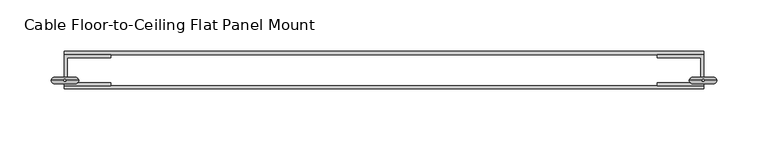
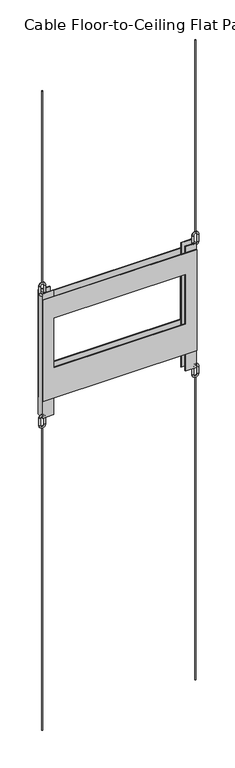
"""IFC4 building model written with IfcOpenShell, lengths in millimetres: proxy geometry, Flat_Panel_Mount-Chief-Cable_Floor_to_Ceiling : Cable Floor-to-Ceiling Flat Panel Mount."""

from ifc_helpers import new_model, si_unit, point, frame, frame_2d, origin, origin_with_axes, place, context, project, spatial, polyline, circle_curve, ellipse_curve, trimmed, segment, composite_curve, outline, extrude, source, transform, mapped, element, save
from ifc_brep_helpers import cylinder_surface, revolved_surface, advanced_brep


def cable_floor_to_ceiling_flat_panel_mount_2f2725ce(model_context):
    return source(origin(), model_context, "Body", "SolidModel", [
        extrude(outline(polyline([(1849.8301809, 311.785), (1849.8301809, -311.785), (1414.9821809, -311.785), (1414.9821809, 311.785), (1849.8301809, 311.785)]), holes=[polyline([(1545.0301809, -266.7), (1757.6281809, -266.7), (1757.6281809, 266.7), (1545.0301809, 266.7), (1545.0301809, -266.7)])]), frame((0.0, 33.528, 0.0), z_axis=(0.0, 1.0, 0.0), x_axis=(0.0, 0.0, 1.0)), (0.0, 0.0, 1.0), 3.048),
        advanced_brep(
        [(-324.485, 8.255, 1311.3501809), (-297.815, 8.255, 1311.3501809), (-304.165, 8.255, 1311.3501809), (-318.135, 8.255, 1311.3501809), (-318.135, 8.255, 1341.8301809), (-324.485, 8.255, 1341.8301809), (-297.815, 8.255, 1341.8301809), (-304.165, 8.255, 1341.8301809)],
        [
            (0, 1, circle_curve(frame((-311.15, 8.255, 1311.3501809), z_axis=(0.0, -1.0, 0.0), x_axis=(1.0, 0.0, 0.0)), 13.335)),
            (1, 2, circle_curve(frame((-300.99, 8.255, 1311.3501809), z_axis=(0.0, 0.0, -1.0), x_axis=(1.0, 0.0, 0.0)), 3.175)),
            (2, 3, circle_curve(frame((-311.15, 8.255, 1311.3501809), z_axis=(0.0, 1.0, 0.0), x_axis=(1.0, 0.0, 0.0)), 6.985)),
            (3, 0, circle_curve(frame((-321.31, 8.255, 1311.3501809), z_axis=(0.0, 0.0, -1.0), x_axis=(-1.0, 0.0, 0.0)), 3.175)),
            (2, 1, circle_curve(frame((-300.99, 8.255, 1311.3501809), z_axis=(0.0, 0.0, -1.0), x_axis=(1.0, 0.0, 0.0)), 3.175)),
            (0, 3, circle_curve(frame((-321.31, 8.255, 1311.3501809), z_axis=(0.0, 0.0, -1.0), x_axis=(-1.0, 0.0, 0.0)), 3.175)),
            (3, 4),
            (4, 5, circle_curve(frame((-321.31, 8.255, 1341.8301809), z_axis=(0.0, 0.0, -1.0), x_axis=(-1.0, 0.0, 0.0)), 3.175)),
            (5, 0),
            (5, 4, circle_curve(frame((-321.31, 8.255, 1341.8301809), z_axis=(0.0, 0.0, -1.0), x_axis=(-1.0, 0.0, 0.0)), 3.175)),
            (6, 5, circle_curve(frame((-311.15, 8.255, 1341.8301809), z_axis=(0.0, -1.0, 0.0), x_axis=(-1.0, 0.0, 0.0)), 13.335)),
            (4, 7, circle_curve(frame((-311.15, 8.255, 1341.8301809), z_axis=(0.0, 1.0, 0.0), x_axis=(-1.0, 0.0, 0.0)), 6.985)),
            (7, 6, circle_curve(frame((-300.99, 8.255, 1341.8301809), z_axis=(0.0, 0.0, 1.0), x_axis=(1.0, 0.0, 0.0)), 3.175)),
            (6, 7, circle_curve(frame((-300.99, 8.255, 1341.8301809), z_axis=(0.0, 0.0, 1.0), x_axis=(1.0, 0.0, 0.0)), 3.175)),
            (7, 2),
            (1, 6),
        ],
        [
            revolved_surface(trimmed(ellipse_curve(frame((-300.99, 8.255, 1311.3501809), z_axis=(0.0, 0.0, 1.0), x_axis=(1.0, 0.0, 0.0)), 3.175, 3.175), [point((-304.165, 8.255, 1311.3501809))], [point((-297.815, 8.255, 1311.3501809))], True, "CARTESIAN"), (-311.15, 8.255, 1311.3501809), (0.0, 1.0, 0.0)),
            revolved_surface(trimmed(ellipse_curve(frame((-300.99, 8.255, 1311.3501809), z_axis=(0.0, 0.0, 1.0), x_axis=(1.0, 0.0, 0.0)), 3.175, 3.175), [point((-297.815, 8.255, 1311.3501809))], [point((-304.165, 8.255, 1311.3501809))], True, "CARTESIAN"), (-311.15, 8.255, 1311.3501809), (0.0, 1.0, 0.0)),
            cylinder_surface(frame((-321.31, 8.255, 1311.3501809), z_axis=(0.0, 0.0, -1.0), x_axis=(-1.0, 0.0, 0.0)), 3.175),
            revolved_surface(trimmed(ellipse_curve(frame((-321.31, 8.255, 1341.8301809), z_axis=(0.0, 0.0, -1.0), x_axis=(-1.0, 0.0, 0.0)), 3.175, 3.175), [point((-318.135, 8.255, 1341.8301809))], [point((-324.485, 8.255, 1341.8301809))], True, "CARTESIAN"), (-311.15, 8.255, 1341.8301809), (0.0, 1.0, 0.0)),
            revolved_surface(trimmed(ellipse_curve(frame((-321.31, 8.255, 1341.8301809), z_axis=(0.0, 0.0, -1.0), x_axis=(-1.0, 0.0, 0.0)), 3.175, 3.175), [point((-324.485, 8.255, 1341.8301809))], [point((-318.135, 8.255, 1341.8301809))], True, "CARTESIAN"), (-311.15, 8.255, 1341.8301809), (0.0, 1.0, 0.0)),
            cylinder_surface(frame((-300.99, 8.255, 1341.8301809), z_axis=(0.0, 0.0, 1.0), x_axis=(1.0, 0.0, 0.0)), 3.175),
        ],
        [
            (0, [[1, 2, 3, 4]]),
            (1, [[-3, 5, -1, 6]]),
            (2, [[-4, 7, 8, 9]]),
            (2, [[-6, -9, 10, -7]]),
            (3, [[11, -8, 12, 13]]),
            (4, [[-12, -10, -11, 14]]),
            (5, [[-13, 15, -2, 16]]),
            (5, [[-14, -16, -5, -15]]),
        ],
    ),
        extrude(outline(composite_curve([segment(trimmed(circle_curve(frame_2d((-311.15, 8.255)), 1.016), [point((-312.166, 8.255))], [point((-310.134, 8.255))], False, "CARTESIAN"), True, "CONTINUOUS"), segment(trimmed(circle_curve(frame_2d((-311.15, 8.255)), 1.016), [point((-310.134, 8.255))], [point((-312.166, 8.255))], False, "CARTESIAN"), True, "CONTINUOUS")], self_intersect=False)), origin_with_axes(), (0.0, 0.0, 1.0), 1301.1901809),
        advanced_brep(
        [(-297.815, 8.255, 1908.2501809), (-324.485, 8.255, 1908.2501809), (-318.135, 8.255, 1908.2501809), (-304.165, 8.255, 1908.2501809), (-304.165, 8.255, 1877.7701809), (-297.815, 8.255, 1877.7701809), (-324.485, 8.255, 1877.7701809), (-318.135, 8.255, 1877.7701809)],
        [
            (0, 1, circle_curve(frame((-311.15, 8.255, 1908.2501809), z_axis=(0.0, -1.0, 0.0), x_axis=(-1.0, 0.0, 0.0)), 13.335)),
            (1, 2, circle_curve(frame((-321.31, 8.255, 1908.2501809), z_axis=(0.0, 0.0, 1.0), x_axis=(-1.0, 0.0, 0.0)), 3.175)),
            (2, 3, circle_curve(frame((-311.15, 8.255, 1908.2501809), z_axis=(0.0, 1.0, 0.0), x_axis=(-1.0, 0.0, 0.0)), 6.985)),
            (3, 0, circle_curve(frame((-300.99, 8.255, 1908.2501809), z_axis=(0.0, 0.0, 1.0), x_axis=(1.0, 0.0, 0.0)), 3.175)),
            (2, 1, circle_curve(frame((-321.31, 8.255, 1908.2501809), z_axis=(0.0, 0.0, 1.0), x_axis=(-1.0, 0.0, 0.0)), 3.175)),
            (0, 3, circle_curve(frame((-300.99, 8.255, 1908.2501809), z_axis=(0.0, 0.0, 1.0), x_axis=(1.0, 0.0, 0.0)), 3.175)),
            (3, 4),
            (4, 5, circle_curve(frame((-300.99, 8.255, 1877.7701809), z_axis=(0.0, 0.0, 1.0), x_axis=(1.0, 0.0, 0.0)), 3.175)),
            (5, 0),
            (5, 4, circle_curve(frame((-300.99, 8.255, 1877.7701809), z_axis=(0.0, 0.0, 1.0), x_axis=(1.0, 0.0, 0.0)), 3.175)),
            (6, 5, circle_curve(frame((-311.15, 8.255, 1877.7701809), z_axis=(0.0, -1.0, 0.0), x_axis=(1.0, 0.0, 0.0)), 13.335)),
            (4, 7, circle_curve(frame((-311.15, 8.255, 1877.7701809), z_axis=(0.0, 1.0, 0.0), x_axis=(1.0, 0.0, 0.0)), 6.985)),
            (7, 6, circle_curve(frame((-321.31, 8.255, 1877.7701809), z_axis=(0.0, 0.0, -1.0), x_axis=(-1.0, 0.0, 0.0)), 3.175)),
            (6, 7, circle_curve(frame((-321.31, 8.255, 1877.7701809), z_axis=(0.0, 0.0, -1.0), x_axis=(-1.0, 0.0, 0.0)), 3.175)),
            (7, 2),
            (1, 6),
        ],
        [
            revolved_surface(trimmed(ellipse_curve(frame((-321.31, 8.255, 1908.2501809), z_axis=(0.0, 0.0, -1.0), x_axis=(-1.0, 0.0, 0.0)), 3.175, 3.175), [point((-318.135, 8.255, 1908.2501809))], [point((-324.485, 8.255, 1908.2501809))], True, "CARTESIAN"), (-311.15, 8.255, 1908.2501809), (0.0, 1.0, 0.0)),
            revolved_surface(trimmed(ellipse_curve(frame((-321.31, 8.255, 1908.2501809), z_axis=(0.0, 0.0, -1.0), x_axis=(-1.0, 0.0, 0.0)), 3.175, 3.175), [point((-324.485, 8.255, 1908.2501809))], [point((-318.135, 8.255, 1908.2501809))], True, "CARTESIAN"), (-311.15, 8.255, 1908.2501809), (0.0, 1.0, 0.0)),
            cylinder_surface(frame((-300.99, 8.255, 1908.2501809), z_axis=(0.0, 0.0, 1.0), x_axis=(1.0, 0.0, 0.0)), 3.175),
            revolved_surface(trimmed(ellipse_curve(frame((-300.99, 8.255, 1877.7701809), z_axis=(0.0, 0.0, 1.0), x_axis=(1.0, 0.0, 0.0)), 3.175, 3.175), [point((-304.165, 8.255, 1877.7701809))], [point((-297.815, 8.255, 1877.7701809))], True, "CARTESIAN"), (-311.15, 8.255, 1877.7701809), (0.0, 1.0, 0.0)),
            revolved_surface(trimmed(ellipse_curve(frame((-300.99, 8.255, 1877.7701809), z_axis=(0.0, 0.0, 1.0), x_axis=(1.0, 0.0, 0.0)), 3.175, 3.175), [point((-297.815, 8.255, 1877.7701809))], [point((-304.165, 8.255, 1877.7701809))], True, "CARTESIAN"), (-311.15, 8.255, 1877.7701809), (0.0, 1.0, 0.0)),
            cylinder_surface(frame((-321.31, 8.255, 1877.7701809), z_axis=(0.0, 0.0, -1.0), x_axis=(-1.0, 0.0, 0.0)), 3.175),
        ],
        [
            (0, [[1, 2, 3, 4]]),
            (1, [[-3, 5, -1, 6]]),
            (2, [[-4, 7, 8, 9]]),
            (2, [[-6, -9, 10, -7]]),
            (3, [[11, -8, 12, 13]]),
            (4, [[-12, -10, -11, 14]]),
            (5, [[-13, 15, -2, 16]]),
            (5, [[-14, -16, -5, -15]]),
        ],
    ),
        extrude(outline(composite_curve([segment(trimmed(circle_curve(frame_2d((-311.15, 8.255)), 1.016), [point((-310.134, 8.255))], [point((-312.166, 8.255))], False, "CARTESIAN"), True, "CONTINUOUS"), segment(trimmed(circle_curve(frame_2d((-311.15, 8.255)), 1.016), [point((-312.166, 8.255))], [point((-310.134, 8.255))], False, "CARTESIAN"), True, "CONTINUOUS")], self_intersect=False)), frame((0.0, 0.0, 1918.4101809), z_axis=(0.0, 0.0, 1.0), x_axis=(1.0, 0.0, 0.0)), (0.0, 0.0, 1.0), 824.7898191),
        advanced_brep(
        [(297.815, 8.255, 1311.3501809), (324.485, 8.255, 1311.3501809), (318.135, 8.255, 1311.3501809), (304.165, 8.255, 1311.3501809), (304.165, 8.255, 1341.8301809), (297.815, 8.255, 1341.8301809), (324.485, 8.255, 1341.8301809), (318.135, 8.255, 1341.8301809)],
        [
            (0, 1, circle_curve(frame((311.15, 8.255, 1311.3501809), z_axis=(0.0, -1.0, 0.0), x_axis=(1.0, 0.0, 0.0)), 13.335)),
            (1, 2, circle_curve(frame((321.31, 8.255, 1311.3501809), z_axis=(0.0, 0.0, -1.0), x_axis=(1.0, 0.0, 0.0)), 3.175)),
            (2, 3, circle_curve(frame((311.15, 8.255, 1311.3501809), z_axis=(0.0, 1.0, 0.0), x_axis=(1.0, 0.0, 0.0)), 6.985)),
            (3, 0, circle_curve(frame((300.99, 8.255, 1311.3501809), z_axis=(0.0, 0.0, -1.0), x_axis=(-1.0, 0.0, 0.0)), 3.175)),
            (2, 1, circle_curve(frame((321.31, 8.255, 1311.3501809), z_axis=(0.0, 0.0, -1.0), x_axis=(1.0, 0.0, 0.0)), 3.175)),
            (0, 3, circle_curve(frame((300.99, 8.255, 1311.3501809), z_axis=(0.0, 0.0, -1.0), x_axis=(-1.0, 0.0, 0.0)), 3.175)),
            (3, 4),
            (4, 5, circle_curve(frame((300.99, 8.255, 1341.8301809), z_axis=(0.0, 0.0, -1.0), x_axis=(-1.0, 0.0, 0.0)), 3.175)),
            (5, 0),
            (5, 4, circle_curve(frame((300.99, 8.255, 1341.8301809), z_axis=(0.0, 0.0, -1.0), x_axis=(-1.0, 0.0, 0.0)), 3.175)),
            (6, 5, circle_curve(frame((311.15, 8.255, 1341.8301809), z_axis=(0.0, -1.0, 0.0), x_axis=(-1.0, 0.0, 0.0)), 13.335)),
            (4, 7, circle_curve(frame((311.15, 8.255, 1341.8301809), z_axis=(0.0, 1.0, 0.0), x_axis=(-1.0, 0.0, 0.0)), 6.985)),
            (7, 6, circle_curve(frame((321.31, 8.255, 1341.8301809), z_axis=(0.0, 0.0, 1.0), x_axis=(1.0, 0.0, 0.0)), 3.175)),
            (6, 7, circle_curve(frame((321.31, 8.255, 1341.8301809), z_axis=(0.0, 0.0, 1.0), x_axis=(1.0, 0.0, 0.0)), 3.175)),
            (7, 2),
            (1, 6),
        ],
        [
            revolved_surface(trimmed(ellipse_curve(frame((321.31, 8.255, 1311.3501809), z_axis=(0.0, 0.0, 1.0), x_axis=(1.0, 0.0, 0.0)), 3.175, 3.175), [point((318.135, 8.255, 1311.3501809))], [point((324.485, 8.255, 1311.3501809))], True, "CARTESIAN"), (311.15, 8.255, 1311.3501809), (0.0, 1.0, 0.0)),
            revolved_surface(trimmed(ellipse_curve(frame((321.31, 8.255, 1311.3501809), z_axis=(0.0, 0.0, 1.0), x_axis=(1.0, 0.0, 0.0)), 3.175, 3.175), [point((324.485, 8.255, 1311.3501809))], [point((318.135, 8.255, 1311.3501809))], True, "CARTESIAN"), (311.15, 8.255, 1311.3501809), (0.0, 1.0, 0.0)),
            cylinder_surface(frame((300.99, 8.255, 1311.3501809), z_axis=(0.0, 0.0, -1.0), x_axis=(-1.0, 0.0, 0.0)), 3.175),
            revolved_surface(trimmed(ellipse_curve(frame((300.99, 8.255, 1341.8301809), z_axis=(0.0, 0.0, -1.0), x_axis=(-1.0, 0.0, 0.0)), 3.175, 3.175), [point((304.165, 8.255, 1341.8301809))], [point((297.815, 8.255, 1341.8301809))], True, "CARTESIAN"), (311.15, 8.255, 1341.8301809), (0.0, 1.0, 0.0)),
            revolved_surface(trimmed(ellipse_curve(frame((300.99, 8.255, 1341.8301809), z_axis=(0.0, 0.0, -1.0), x_axis=(-1.0, 0.0, 0.0)), 3.175, 3.175), [point((297.815, 8.255, 1341.8301809))], [point((304.165, 8.255, 1341.8301809))], True, "CARTESIAN"), (311.15, 8.255, 1341.8301809), (0.0, 1.0, 0.0)),
            cylinder_surface(frame((321.31, 8.255, 1341.8301809), z_axis=(0.0, 0.0, 1.0), x_axis=(1.0, 0.0, 0.0)), 3.175),
        ],
        [
            (0, [[1, 2, 3, 4]]),
            (1, [[-3, 5, -1, 6]]),
            (2, [[-4, 7, 8, 9]]),
            (2, [[-6, -9, 10, -7]]),
            (3, [[11, -8, 12, 13]]),
            (4, [[-12, -10, -11, 14]]),
            (5, [[-13, 15, -2, 16]]),
            (5, [[-14, -16, -5, -15]]),
        ],
    ),
        extrude(outline(composite_curve([segment(trimmed(circle_curve(frame_2d((311.15, 8.255)), 1.016), [point((310.134, 8.255))], [point((312.166, 8.255))], False, "CARTESIAN"), True, "CONTINUOUS"), segment(trimmed(circle_curve(frame_2d((311.15, 8.255)), 1.016), [point((312.166, 8.255))], [point((310.134, 8.255))], False, "CARTESIAN"), True, "CONTINUOUS")], self_intersect=False)), origin_with_axes(), (0.0, 0.0, 1.0), 1301.1901809),
        advanced_brep(
        [(324.485, 8.255, 1908.2501809), (297.815, 8.255, 1908.2501809), (304.165, 8.255, 1908.2501809), (318.135, 8.255, 1908.2501809), (318.135, 8.255, 1877.7701809), (324.485, 8.255, 1877.7701809), (297.815, 8.255, 1877.7701809), (304.165, 8.255, 1877.7701809)],
        [
            (0, 1, circle_curve(frame((311.15, 8.255, 1908.2501809), z_axis=(0.0, -1.0, 0.0), x_axis=(-1.0, 0.0, 0.0)), 13.335)),
            (1, 2, circle_curve(frame((300.99, 8.255, 1908.2501809), z_axis=(0.0, 0.0, 1.0), x_axis=(-1.0, 0.0, 0.0)), 3.175)),
            (2, 3, circle_curve(frame((311.15, 8.255, 1908.2501809), z_axis=(0.0, 1.0, 0.0), x_axis=(-1.0, 0.0, 0.0)), 6.985)),
            (3, 0, circle_curve(frame((321.31, 8.255, 1908.2501809), z_axis=(0.0, 0.0, 1.0), x_axis=(1.0, 0.0, 0.0)), 3.175)),
            (2, 1, circle_curve(frame((300.99, 8.255, 1908.2501809), z_axis=(0.0, 0.0, 1.0), x_axis=(-1.0, 0.0, 0.0)), 3.175)),
            (0, 3, circle_curve(frame((321.31, 8.255, 1908.2501809), z_axis=(0.0, 0.0, 1.0), x_axis=(1.0, 0.0, 0.0)), 3.175)),
            (3, 4),
            (4, 5, circle_curve(frame((321.31, 8.255, 1877.7701809), z_axis=(0.0, 0.0, 1.0), x_axis=(1.0, 0.0, 0.0)), 3.175)),
            (5, 0),
            (5, 4, circle_curve(frame((321.31, 8.255, 1877.7701809), z_axis=(0.0, 0.0, 1.0), x_axis=(1.0, 0.0, 0.0)), 3.175)),
            (6, 5, circle_curve(frame((311.15, 8.255, 1877.7701809), z_axis=(0.0, -1.0, 0.0), x_axis=(1.0, 0.0, 0.0)), 13.335)),
            (4, 7, circle_curve(frame((311.15, 8.255, 1877.7701809), z_axis=(0.0, 1.0, 0.0), x_axis=(1.0, 0.0, 0.0)), 6.985)),
            (7, 6, circle_curve(frame((300.99, 8.255, 1877.7701809), z_axis=(0.0, 0.0, -1.0), x_axis=(-1.0, 0.0, 0.0)), 3.175)),
            (6, 7, circle_curve(frame((300.99, 8.255, 1877.7701809), z_axis=(0.0, 0.0, -1.0), x_axis=(-1.0, 0.0, 0.0)), 3.175)),
            (7, 2),
            (1, 6),
        ],
        [
            revolved_surface(trimmed(ellipse_curve(frame((300.99, 8.255, 1908.2501809), z_axis=(0.0, 0.0, -1.0), x_axis=(-1.0, 0.0, 0.0)), 3.175, 3.175), [point((304.165, 8.255, 1908.2501809))], [point((297.815, 8.255, 1908.2501809))], True, "CARTESIAN"), (311.15, 8.255, 1908.2501809), (0.0, 1.0, 0.0)),
            revolved_surface(trimmed(ellipse_curve(frame((300.99, 8.255, 1908.2501809), z_axis=(0.0, 0.0, -1.0), x_axis=(-1.0, 0.0, 0.0)), 3.175, 3.175), [point((297.815, 8.255, 1908.2501809))], [point((304.165, 8.255, 1908.2501809))], True, "CARTESIAN"), (311.15, 8.255, 1908.2501809), (0.0, 1.0, 0.0)),
            cylinder_surface(frame((321.31, 8.255, 1908.2501809), z_axis=(0.0, 0.0, 1.0), x_axis=(1.0, 0.0, 0.0)), 3.175),
            revolved_surface(trimmed(ellipse_curve(frame((321.31, 8.255, 1877.7701809), z_axis=(0.0, 0.0, 1.0), x_axis=(1.0, 0.0, 0.0)), 3.175, 3.175), [point((318.135, 8.255, 1877.7701809))], [point((324.485, 8.255, 1877.7701809))], True, "CARTESIAN"), (311.15, 8.255, 1877.7701809), (0.0, 1.0, 0.0)),
            revolved_surface(trimmed(ellipse_curve(frame((321.31, 8.255, 1877.7701809), z_axis=(0.0, 0.0, 1.0), x_axis=(1.0, 0.0, 0.0)), 3.175, 3.175), [point((324.485, 8.255, 1877.7701809))], [point((318.135, 8.255, 1877.7701809))], True, "CARTESIAN"), (311.15, 8.255, 1877.7701809), (0.0, 1.0, 0.0)),
            cylinder_surface(frame((300.99, 8.255, 1877.7701809), z_axis=(0.0, 0.0, -1.0), x_axis=(-1.0, 0.0, 0.0)), 3.175),
        ],
        [
            (0, [[1, 2, 3, 4]]),
            (1, [[-3, 5, -1, 6]]),
            (2, [[-4, 7, 8, 9]]),
            (2, [[-6, -9, 10, -7]]),
            (3, [[11, -8, 12, 13]]),
            (4, [[-12, -10, -11, 14]]),
            (5, [[-13, 15, -2, 16]]),
            (5, [[-14, -16, -5, -15]]),
        ],
    ),
        extrude(outline(composite_curve([segment(trimmed(circle_curve(frame_2d((311.15, 8.255)), 1.016), [point((312.166, 8.255))], [point((310.134, 8.255))], False, "CARTESIAN"), True, "CONTINUOUS"), segment(trimmed(circle_curve(frame_2d((311.15, 8.255)), 1.016), [point((310.134, 8.255))], [point((312.166, 8.255))], False, "CARTESIAN"), True, "CONTINUOUS")], self_intersect=False)), frame((0.0, 0.0, 1918.4101809), z_axis=(0.0, 0.0, 1.0), x_axis=(1.0, 0.0, 0.0)), (0.0, 0.0, 1.0), 824.7898191),
        extrude(outline(polyline([(308.737, 6.096), (308.737, 30.48), (266.7, 30.48), (266.7, 33.528), (311.785, 33.528), (311.785, 3.048), (266.7, 3.048), (266.7, 6.096), (308.737, 6.096)])), frame((0.0, 0.0, 1341.8301809), z_axis=(0.0, 0.0, 1.0), x_axis=(1.0, 0.0, 0.0)), (0.0, 0.0, 1.0), 533.4),
        extrude(outline(polyline([(-266.7, 6.096), (-266.7, 3.048), (-311.785, 3.048), (-311.785, 33.528), (-266.7, 33.528), (-266.7, 30.48), (-308.737, 30.48), (-308.737, 6.096), (-266.7, 6.096)])), frame((0.0, 0.0, 1341.8301809), z_axis=(0.0, 0.0, 1.0), x_axis=(1.0, 0.0, 0.0)), (0.0, 0.0, 1.0), 533.4),
        extrude(outline(polyline([(1849.8301809, -311.785), (1414.9821809, -311.785), (1414.9821809, 311.785), (1849.8301809, 311.785), (1849.8301809, -311.785)]), holes=[polyline([(1545.0301809, 266.7), (1545.0301809, -266.7), (1757.6281809, -266.7), (1757.6281809, 266.7), (1545.0301809, 266.7)])]), frame((0.0, 0.0, 0.0), z_axis=(0.0, 1.0, 0.0), x_axis=(0.0, 0.0, 1.0)), (0.0, 0.0, 1.0), 3.048),
    ])


if __name__ == "__main__":
    model = new_model("IFC4")
    model_context = context("Model", 3, world=origin())
    ifc_project = project(units=[si_unit("LENGTHUNIT", "METRE", prefix="MILLI")], contexts=[model_context])
    site = spatial("IfcSite", under=ifc_project)
    building = spatial("IfcBuilding", under=site)
    placement = place(None, origin())
    cable_floor_to_ceiling_flat_panel_mount_shape = cable_floor_to_ceiling_flat_panel_mount_2f2725ce(model_context)
    element("IfcBuildingElementProxy", 1, Name="Flat_Panel_Mount-Chief-Cable_Floor_to_Ceiling : Cable Floor-to-Ceiling Flat Panel Mount", ObjectType="Flat_Panel_Mount-Chief-Cable_Floor_to_Ceiling : Cable Floor-to-Ceiling Flat Panel Mount", at=placement, inside=building, context=model_context, shape_type="MappedRepresentation", body=[
        mapped(cable_floor_to_ceiling_flat_panel_mount_shape, transform((0.0, 0.0, 0.0), x_axis=(1.0, 0.0, 0.0), y_axis=(0.0, 1.0, 0.0), z_axis=(0.0, 0.0, 1.0))),
    ])
    save(model, "model.ifc")
